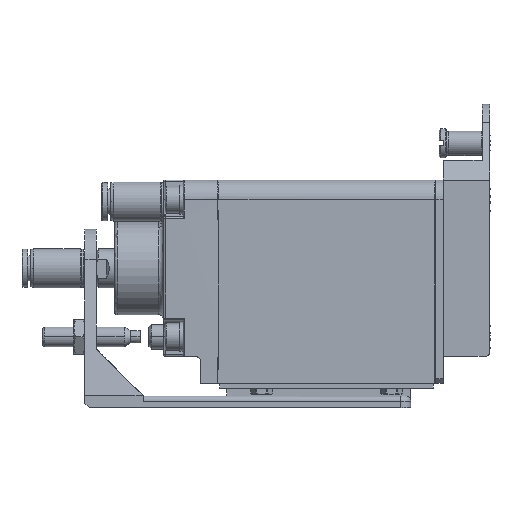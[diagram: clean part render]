
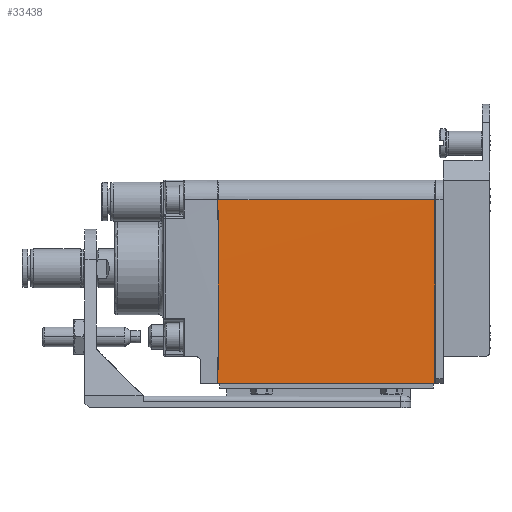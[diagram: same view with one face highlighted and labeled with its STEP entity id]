
A CAD part, left-side view. The second image highlights one B-rep face of the part: STEP entity #33438.
In plain terms, the highlighted planar face has unit normal (-1, 0, 0).
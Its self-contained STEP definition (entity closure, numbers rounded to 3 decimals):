
#930 = CARTESIAN_POINT ( 'NONE',  ( -13.95, 44.425, 14. ) ) ;
#1171 = DIRECTION ( 'NONE',  ( 0., 0., -1. ) ) ;
#1215 = CARTESIAN_POINT ( 'NONE',  ( -14., 44.3, -4.75 ) ) ;
#2391 = VERTEX_POINT ( 'NONE', #7375 ) ;
#3171 = VECTOR ( 'NONE', #12410, 1000. ) ;
#5031 = CARTESIAN_POINT ( 'NONE',  ( -14., 0.2, 14. ) ) ;
#5360 = LINE ( 'NONE', #24214, #21394 ) ;
#5424 = AXIS2_PLACEMENT_3D ( 'NONE', #14026, #35024, #17088 ) ;
#6145 = DIRECTION ( 'NONE',  ( 0., 1., 0. ) ) ;
#7009 = EDGE_CURVE ( 'NONE', #24351, #27279, #19566, .T. ) ;
#7375 = CARTESIAN_POINT ( 'NONE',  ( -14., 0.2, -23.5 ) ) ;
#8107 = CARTESIAN_POINT ( 'NONE',  ( -14., 0.2, -4.75 ) ) ;
#10334 = ORIENTED_EDGE ( 'NONE', *, *, #30661, .T. ) ;
#12030 = ORIENTED_EDGE ( 'NONE', *, *, #31492, .F. ) ;
#12410 = DIRECTION ( 'NONE',  ( 0., 1., 0. ) ) ;
#12823 = EDGE_CURVE ( 'NONE', #18241, #24351, #5360, .T. ) ;
#13891 = PLANE ( 'NONE',  #5424 ) ;
#14026 = CARTESIAN_POINT ( 'NONE',  ( -14., -4.21, -27.25 ) ) ;
#16119 = VECTOR ( 'NONE', #29185, 1000. ) ;
#17088 = DIRECTION ( 'NONE',  ( 0., 0., 1. ) ) ;
#18241 = VERTEX_POINT ( 'NONE', #5031 ) ;
#18626 = VECTOR ( 'NONE', #1171, 1000. ) ;
#19566 = LINE ( 'NONE', #1215, #18626 ) ;
#21394 = VECTOR ( 'NONE', #6145, 1000. ) ;
#22648 = EDGE_LOOP ( 'NONE', ( #10334, #32955, #28280, #12030 ) ) ;
#24214 = CARTESIAN_POINT ( 'NONE',  ( -14., 22.25, 14. ) ) ;
#24351 = VERTEX_POINT ( 'NONE', #930 ) ;
#24921 = CARTESIAN_POINT ( 'NONE',  ( -13.933, 44.433, -23.5 ) ) ;
#26313 = LINE ( 'NONE', #30408, #3171 ) ;
#27279 = VERTEX_POINT ( 'NONE', #24921 ) ;
#28280 = ORIENTED_EDGE ( 'NONE', *, *, #7009, .T. ) ;
#29185 = DIRECTION ( 'NONE',  ( 0., 0., 1. ) ) ;
#30408 = CARTESIAN_POINT ( 'NONE',  ( -14., 22.25, -23.5 ) ) ;
#30661 = EDGE_CURVE ( 'NONE', #2391, #18241, #39204, .T. ) ;
#31492 = EDGE_CURVE ( 'NONE', #2391, #27279, #26313, .T. ) ;
#32955 = ORIENTED_EDGE ( 'NONE', *, *, #12823, .T. ) ;
#33438 = ADVANCED_FACE ( 'NONE', ( #38600 ), #13891, .T. ) ;
#35024 = DIRECTION ( 'NONE',  ( -1., 0., 0. ) ) ;
#38600 = FACE_OUTER_BOUND ( 'NONE', #22648, .T. ) ;
#39204 = LINE ( 'NONE', #8107, #16119 ) ;
